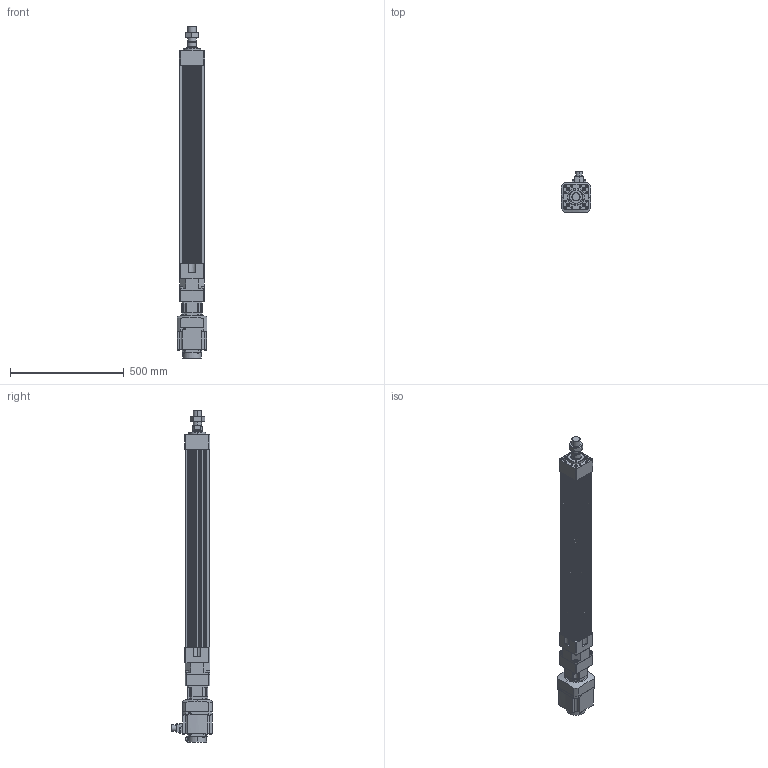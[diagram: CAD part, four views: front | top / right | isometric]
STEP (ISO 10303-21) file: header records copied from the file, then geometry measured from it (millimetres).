
FILE_DESCRIPTION (( 'STEP AP203' ), '1' );
FILE_NAME ('HES110NS(HS)-S700-W010G00-M.STEP', '2023-01-27T05:14:15', ( 'tms' ), ( '' ), 'SwSTEP 2.0', 'SolidWorks 2013', '' );
FILE_SCHEMA (( 'CONFIG_CONTROL_DESIGN' ));
Length unit declared in the file: millimetre
Products named in the file (8): AB090-003[HG-SR102B]; P0401301004; AB0901; HG-SR102; M36X1.5P; HES110 ROD M ST700; HES110-S700-G090; HES110NS(HS)-S700-W010G00-M
Assembly tree (7 placements, depth 3):
  HES110NS(HS)-S700-W010G00-M
    HES110-S700-G090
    HES110 ROD M ST700
    M36X1.5P
    HG-SR102
    AB090-003[HG-SR102B]
      AB0901
      P0401301004
Bounding box: 130 x 177.49 x 1458.5 mm (x, y, z)
Volume: 9269976.9 mm3; surface area: 1306792.3 mm2
Topology: 4 solids, 15 shells, 1197 faces, 3018 edges, 1947 vertices
Faces by surface type: plane 550, cylinder 535, cone 100, bspline 8, torus 4
Entity records: 37761 total; most frequent: CARTESIAN_POINT 7330, DIRECTION 6511, ORIENTED_EDGE 5944, EDGE_CURVE 2982, AXIS2_PLACEMENT_3D 2399, VERTEX_POINT 1947, VECTOR 1713, LINE 1713
